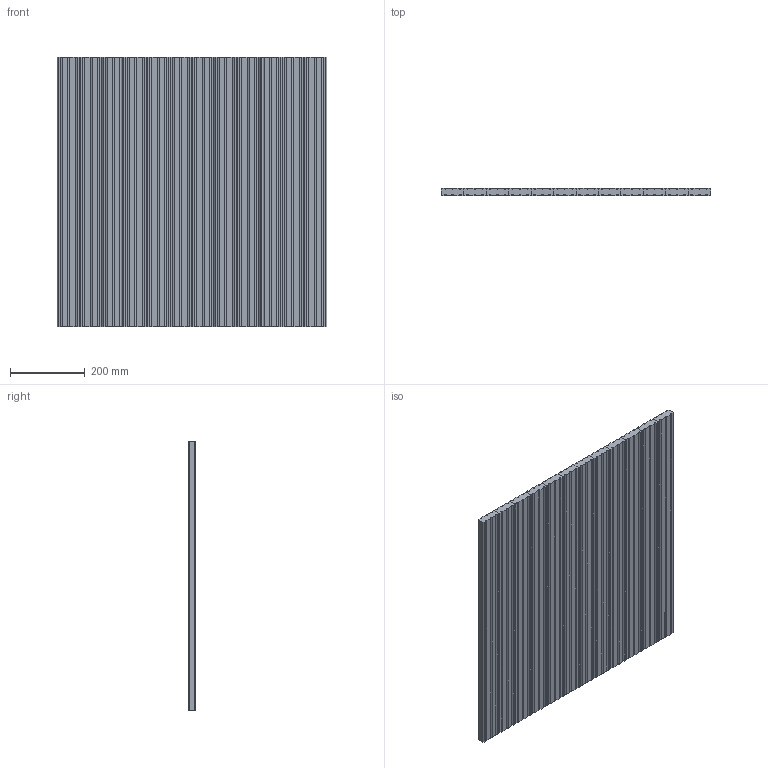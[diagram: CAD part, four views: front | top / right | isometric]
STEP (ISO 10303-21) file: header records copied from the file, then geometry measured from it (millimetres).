
FILE_DESCRIPTION(/* description */ (''),/* implementation_level */ '2;1');
FILE_NAME(/* name */ '底板.stp',/* time_stamp */ '2025-03-06T10:18:28+08:00',/* author */ (''),/* organization */ (''),/* preprocessor_version */ 'ST-DEVELOPER v18.101',/* originating_system */ 'SIEMENS PLM Software NX 2007',/* authorisation */ '');
FILE_SCHEMA (('AP203_CONFIGURATION_CONTROLLED_3D_DESIGN_OF_MECHANICAL_PARTS_AND_ASSEMBLIES_MIM_LF { 1 0 10303 403 2 1 2}'));
Length unit declared in the file: millimetre
Products named in the file (1): 底板
Bounding box: 720 x 20 x 720 mm (x, y, z)
Volume: 9683065 mm3; surface area: 1531553.3 mm2
Topology: 12 solids, 12 shells, 264 faces, 720 edges, 480 vertices
Faces by surface type: plane 192, cylinder 72
Entity records: 8441 total; most frequent: CARTESIAN_POINT 1465, ORIENTED_EDGE 1440, DIRECTION 1394, EDGE_CURVE 720, LINE 576, VECTOR 576, VERTEX_POINT 480, AXIS2_PLACEMENT_3D 409
